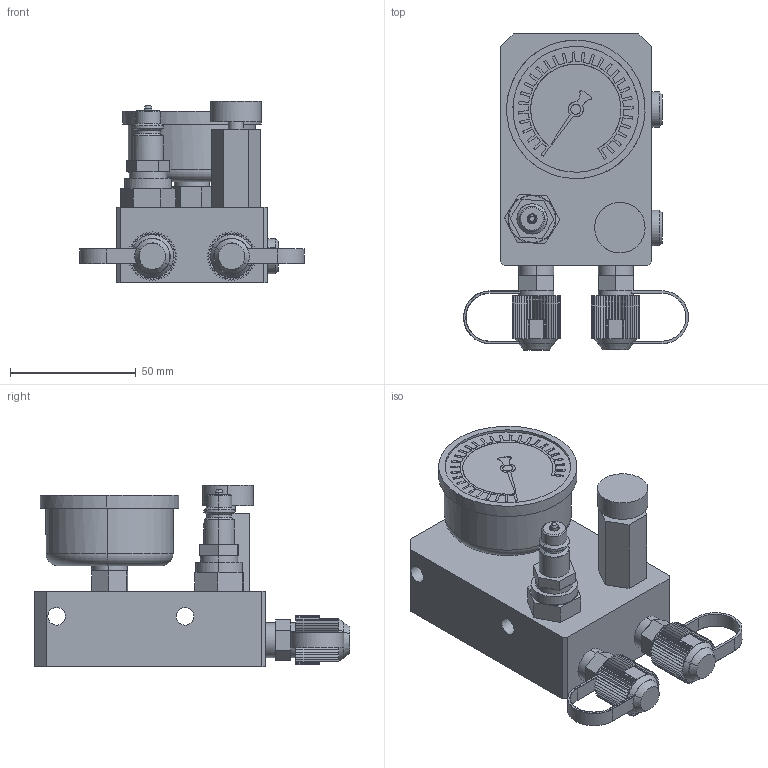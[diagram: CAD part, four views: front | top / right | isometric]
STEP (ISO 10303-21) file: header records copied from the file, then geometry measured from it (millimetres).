
FILE_DESCRIPTION(('CATIA V5 STEP Exchange'),'2;1');
FILE_NAME('W:\LIBRERIA TECAPRES®\FICHEROS CAD\PANEL DE CONTROL\P110M.stp','2016-02-02T14:59:54+00:00',('none'),('none'),'CATIA Version 5 Release 17 (IN-10)','CATIA V5 STEP AP203','none');
FILE_SCHEMA(('CONFIG_CONTROL_DESIGN'));
Length unit declared in the file: millimetre
Products named in the file (1): P 110M
Assembly tree (1 placements, depth 2):
  P 110M
    #56
Bounding box: 89.31 x 125.5 x 72 mm (x, y, z)
Volume: 249369.3 mm3; surface area: 45201.1 mm2
Topology: 1 solids, 3 shells, 655 faces, 1838 edges, 1208 vertices
Faces by surface type: plane 408, cylinder 140, cone 78, torus 29
Entity records: 23550 total; most frequent: CARTESIAN_POINT 7870, ORIENTED_EDGE 3670, DIRECTION 2507, EDGE_CURVE 1835, VECTOR 1278, LINE 1278, VERTEX_POINT 1205, AXIS2_PLACEMENT_3D 741
